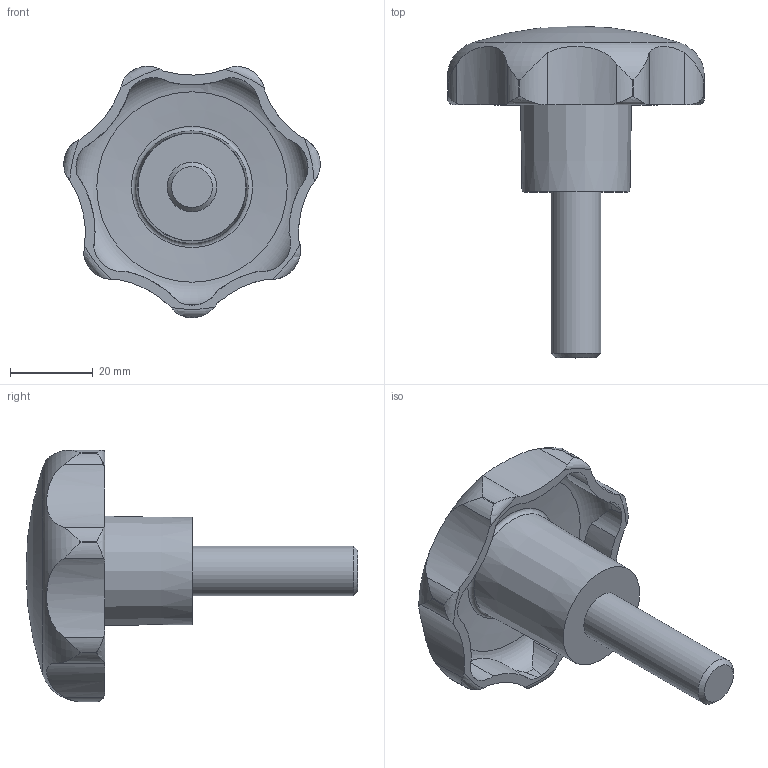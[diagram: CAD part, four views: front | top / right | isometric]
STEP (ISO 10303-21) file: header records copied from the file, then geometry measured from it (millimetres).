
FILE_DESCRIPTION( ( 'STEP AP203' ), '1' );
FILE_NAME( 'C:/Temp/Ganter_Step_05_03_2020/data/2_2/gn_6336_4/gn_6336_4_st/Star knob GN 6336.4-ST-63-M12-40.stp', '2020-03-05T12:07:45', ( 'License CC BY-ND 4.0' ), ( 'CADENAS' ), ' ', 'PARTsolutions', ' ' );
FILE_SCHEMA( ( 'CONFIG_CONTROL_DESIGN' ) );
Length unit declared in the file: millimetre
Products named in the file (1): _Star knob GN 6336.4-ST-63-M12-40
Bounding box: 61.76 x 80 x 60.57 mm (x, y, z)
Volume: 43652.7 mm3; surface area: 13201.9 mm2
Topology: 1 solids, 1 shells, 74 faces, 208 edges, 137 vertices
Faces by surface type: cylinder 50, torus 10, cone 10, plane 3, sphere 1
Full cylindrical faces by diameter (mm): 12 x1
Entity records: 3320 total; most frequent: CARTESIAN_POINT 1487, ORIENTED_EDGE 394, DIRECTION 350, EDGE_CURVE 197, AXIS2_PLACEMENT_3D 154, VERTEX_POINT 135, EDGE_LOOP 83, CIRCLE 79
